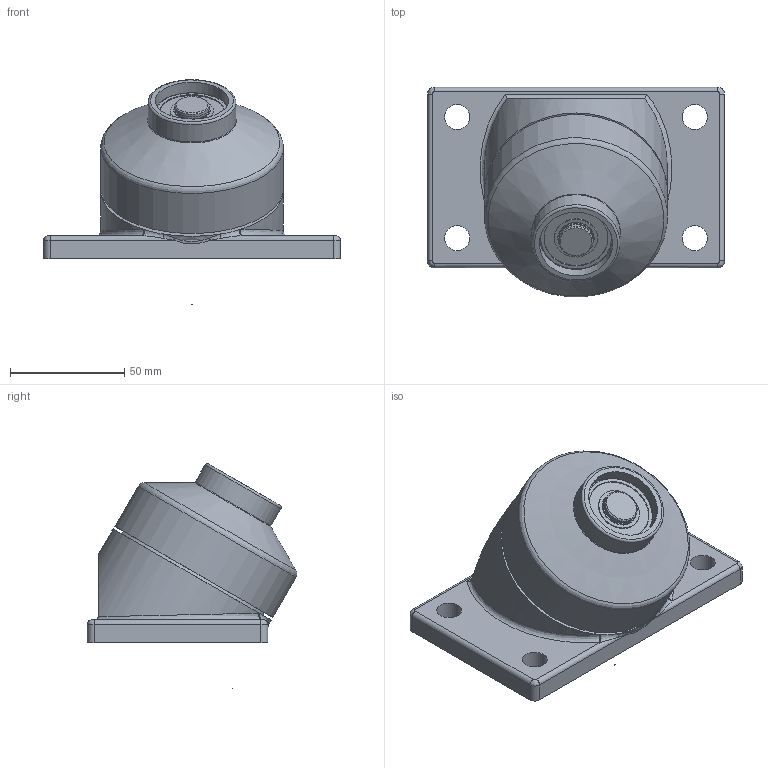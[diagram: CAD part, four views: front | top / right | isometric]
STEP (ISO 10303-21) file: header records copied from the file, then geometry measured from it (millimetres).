
FILE_DESCRIPTION(/* description */ (''),/* implementation_level */ '2;1');
FILE_NAME(/* name */ 'Z:\34-Tei\01-web 3Dデータ\SW車輪\SW-70-K.stp',/* time_stamp */ '2015-03-17T16:37:54+09:00',/* author */ ('yamaki'),/* organization */ (''),/* preprocessor_version */ 'ST-DEVELOPER v15.6',/* originating_system */ 'Autodesk Inventor 2015',/* authorisation */ '');
FILE_SCHEMA (('AUTOMOTIVE_DESIGN { 1 0 10303 214 3 1 1 }'));
Length unit declared in the file: centimetre
Products named in the file (1): SW-70-K
Bounding box: 130 x 91.68 x 98.29 mm (x, y, z)
Volume: 291841.1 mm3; surface area: 61813.7 mm2
Topology: 2 solids, 2 shells, 111 faces, 231 edges, 145 vertices
Faces by surface type: cylinder 43, plane 32, cone 15, bspline 13, torus 8
Full cylindrical faces by diameter (mm): 3 x1, 4.917 x1, 8 x1, 11 x4, 14.3 x1, 15 x3, 16 x1, 19 x2, 25 x1, 26 x1, 27 x1, 28 x2, 32 x1, 32.1 x1, 35 x2, 38.431 x1, 62.1 x1, 65 x2, 80 x1
Entity records: 3209 total; most frequent: CARTESIAN_POINT 917, DIRECTION 467, ORIENTED_EDGE 344, AXIS2_PLACEMENT_3D 219, EDGE_LOOP 191, EDGE_CURVE 172, VERTEX_POINT 133, STYLED_ITEM 113
